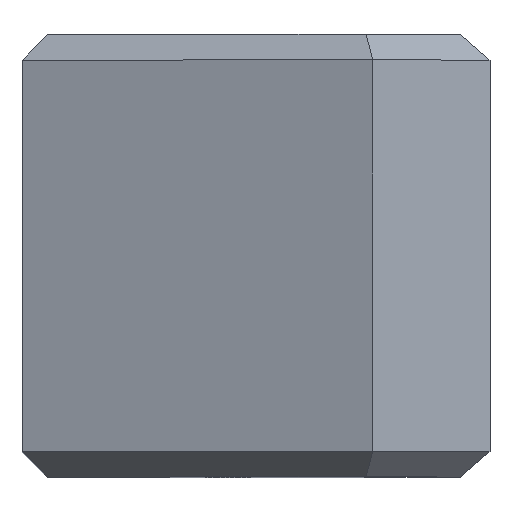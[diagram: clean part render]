
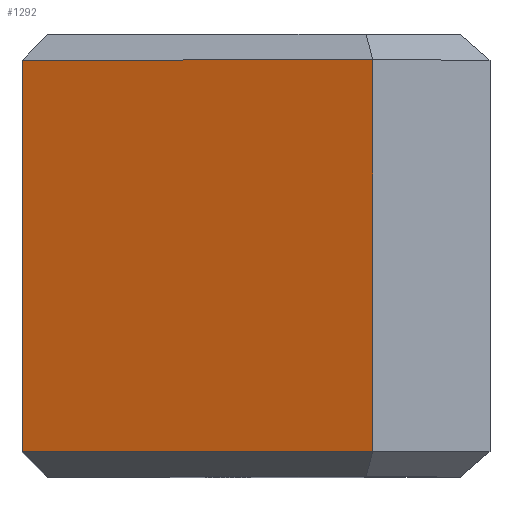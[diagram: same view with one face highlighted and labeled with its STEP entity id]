
A CAD part, top view. The second image highlights one B-rep face of the part: STEP entity #1292.
In plain terms, the highlighted planar face has unit normal (-0.342, 0, 0.94).
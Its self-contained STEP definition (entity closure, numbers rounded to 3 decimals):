
#53=DIRECTION('',(-0.94,0.,-0.342));
#54=VECTOR('',#53,43.857);
#55=CARTESIAN_POINT('',(21.212,23.,35.));
#56=LINE('',#55,#54);
#57=DIRECTION('',(0.,1.,0.));
#58=VECTOR('',#57,46.);
#59=CARTESIAN_POINT('',(21.212,-23.,35.));
#60=LINE('',#59,#58);
#61=DIRECTION('',(0.94,0.,0.342));
#62=VECTOR('',#61,43.857);
#63=CARTESIAN_POINT('',(-20.,-23.,20.));
#64=LINE('',#63,#62);
#380=DIRECTION('',(0.,1.,0.));
#381=VECTOR('',#380,46.);
#382=CARTESIAN_POINT('',(-20.,-23.,20.));
#383=LINE('',#382,#381);
#955=CARTESIAN_POINT('',(21.212,23.,35.));
#956=CARTESIAN_POINT('',(-20.,23.,20.));
#957=VERTEX_POINT('',#955);
#958=VERTEX_POINT('',#956);
#981=CARTESIAN_POINT('',(21.212,-23.,35.));
#982=VERTEX_POINT('',#981);
#983=CARTESIAN_POINT('',(-20.,-23.,20.));
#984=VERTEX_POINT('',#983);
#1278=CARTESIAN_POINT('',(21.212,-26.,35.));
#1279=DIRECTION('',(0.342,0.,-0.94));
#1280=DIRECTION('',(-0.94,0.,-0.342));
#1281=AXIS2_PLACEMENT_3D('',#1278,#1279,#1280);
#1282=PLANE('',#1281);
#1284=ORIENTED_EDGE('',*,*,#1283,.F.);
#1286=ORIENTED_EDGE('',*,*,#1285,.F.);
#1287=ORIENTED_EDGE('',*,*,#1269,.F.);
#1289=ORIENTED_EDGE('',*,*,#1288,.T.);
#1290=EDGE_LOOP('',(#1284,#1286,#1287,#1289));
#1291=FACE_OUTER_BOUND('',#1290,.F.);
#1292=ADVANCED_FACE('',(#1291),#1282,.F.);
#1269=EDGE_CURVE('',#984,#982,#64,.T.);
#1283=EDGE_CURVE('',#957,#958,#56,.T.);
#1285=EDGE_CURVE('',#982,#957,#60,.T.);
#1288=EDGE_CURVE('',#984,#958,#383,.T.);
